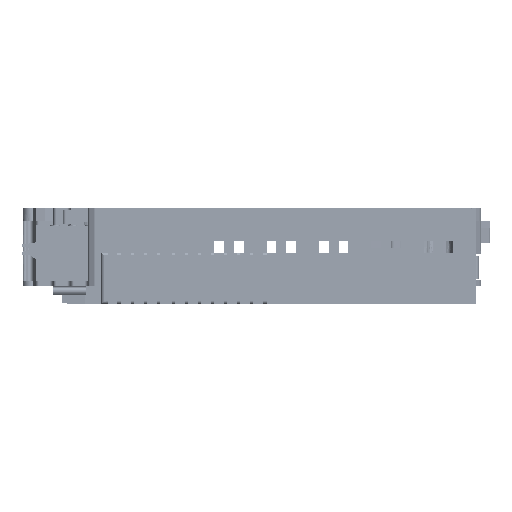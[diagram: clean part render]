
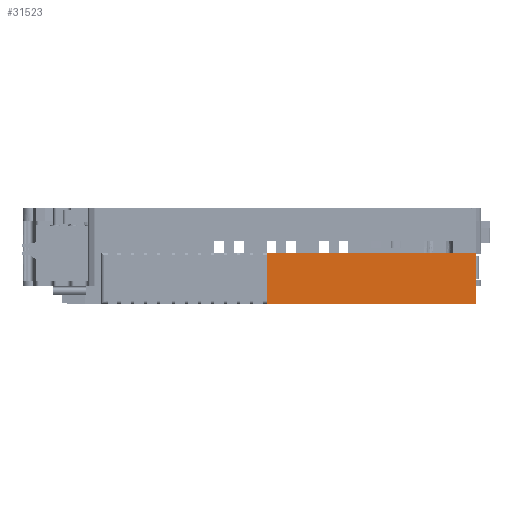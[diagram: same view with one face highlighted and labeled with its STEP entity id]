
A CAD part, left-side view. The second image highlights one B-rep face of the part: STEP entity #31523.
In plain terms, the highlighted planar face has unit normal (-1, 0, 0).
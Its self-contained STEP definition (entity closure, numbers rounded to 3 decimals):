
#5409=DIRECTION('',(0.,1.,0.));
#5410=VECTOR('',#5409,32.);
#5411=CARTESIAN_POINT('',(-49.6,0.,7.8));
#5412=LINE('',#5411,#5410);
#6053=DIRECTION('',(0.,0.,1.));
#6054=VECTOR('',#6053,0.042);
#6055=CARTESIAN_POINT('',(-49.6,32.,0.));
#6056=LINE('',#6055,#6054);
#6057=DIRECTION('',(0.,0.,1.));
#6058=VECTOR('',#6057,7.758);
#6059=CARTESIAN_POINT('',(-49.6,32.,0.042));
#6060=LINE('',#6059,#6058);
#6061=DIRECTION('',(0.,0.,-1.));
#6062=VECTOR('',#6061,7.8);
#6063=CARTESIAN_POINT('',(-49.6,0.,7.8));
#6064=LINE('',#6063,#6062);
#6065=DIRECTION('',(0.,1.,0.));
#6066=VECTOR('',#6065,32.);
#6067=CARTESIAN_POINT('',(-49.6,0.,0.));
#6068=LINE('',#6067,#6066);
#18642=CARTESIAN_POINT('',(-49.6,32.,0.));
#18643=VERTEX_POINT('',#18642);
#18644=CARTESIAN_POINT('',(-49.6,0.,0.));
#18645=VERTEX_POINT('',#18644);
#18851=CARTESIAN_POINT('',(-49.6,0.,7.8));
#18852=VERTEX_POINT('',#18851);
#18853=CARTESIAN_POINT('',(-49.6,32.,7.8));
#18854=VERTEX_POINT('',#18853);
#19067=CARTESIAN_POINT('',(-49.6,32.,0.042));
#19068=VERTEX_POINT('',#19067);
#31510=CARTESIAN_POINT('',(-49.6,55.,0.));
#31511=DIRECTION('',(-1.,0.,0.));
#31512=DIRECTION('',(0.,0.,1.));
#31513=AXIS2_PLACEMENT_3D('',#31510,#31511,#31512);
#31514=PLANE('',#31513);
#31516=ORIENTED_EDGE('',*,*,#31515,.T.);
#31517=ORIENTED_EDGE('',*,*,#31505,.T.);
#31518=ORIENTED_EDGE('',*,*,#30561,.F.);
#31519=ORIENTED_EDGE('',*,*,#29353,.T.);
#31520=ORIENTED_EDGE('',*,*,#30751,.T.);
#31521=EDGE_LOOP('',(#31516,#31517,#31518,#31519,#31520));
#31522=FACE_OUTER_BOUND('',#31521,.F.);
#31523=ADVANCED_FACE('',(#31522),#31514,.T.);
#29353=EDGE_CURVE('',#18852,#18645,#6064,.T.);
#30561=EDGE_CURVE('',#18852,#18854,#5412,.T.);
#30751=EDGE_CURVE('',#18645,#18643,#6068,.T.);
#31505=EDGE_CURVE('',#19068,#18854,#6060,.T.);
#31515=EDGE_CURVE('',#18643,#19068,#6056,.T.);
